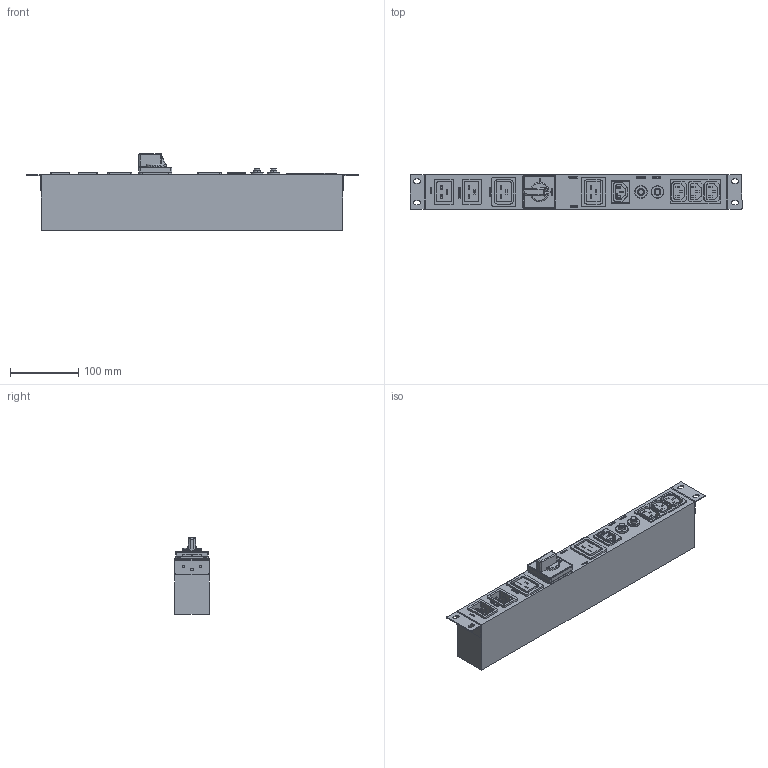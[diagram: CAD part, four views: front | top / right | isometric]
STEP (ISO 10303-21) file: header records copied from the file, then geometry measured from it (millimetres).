
FILE_DESCRIPTION (( 'STEP AP203' ), '1' );
FILE_NAME ('MBSSMLR.STEP', '2025-04-28T11:54:11', ( '' ), ( '' ), 'SwSTEP 2.0', 'SolidWorks 2022', '' );
FILE_SCHEMA (( 'CONFIG_CONTROL_DESIGN' ));
Length unit declared in the file: millimetre
Products named in the file (1): MBSSMLR
Bounding box: 485 x 50 x 111.79 mm (x, y, z)
Volume: 1741955.6 mm3; surface area: 261291 mm2
Topology: 12 solids, 12 shells, 3601 faces, 9956 edges, 6400 vertices
Faces by surface type: plane 1997, cylinder 910, bspline 511, torus 81, sphere 72, cone 30
Entity records: 136705 total; most frequent: CARTESIAN_POINT 47789, ORIENTED_EDGE 19710, DIRECTION 16627, EDGE_CURVE 9855, LINE 6425, VECTOR 6425, VERTEX_POINT 6400, AXIS2_PLACEMENT_3D 5101
